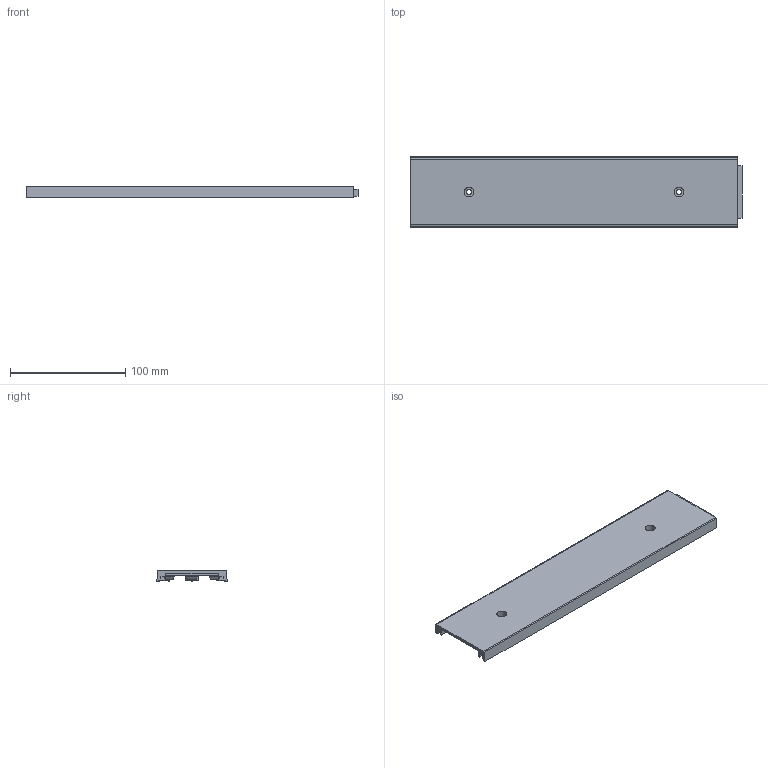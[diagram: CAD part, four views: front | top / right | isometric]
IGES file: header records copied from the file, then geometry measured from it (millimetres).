
Start section: C
Global section: file name: 021-B0K-05.igs; native system: By Siemens PLM Incorporated; preprocessor: XPlus GENERIC/IGES 23.0.61; author: Author; organization: Title; date: 20250623.133827; units: millimetre
Bounding box: 287.8 x 61 x 9.95 mm (x, y, z)
Volume: 70956.7 mm3; surface area: 54269.7 mm2
Topology: 1 solids, 1 shells, 1285 faces, 3598 edges, 2399 vertices
Faces by surface type: bspline 1285
